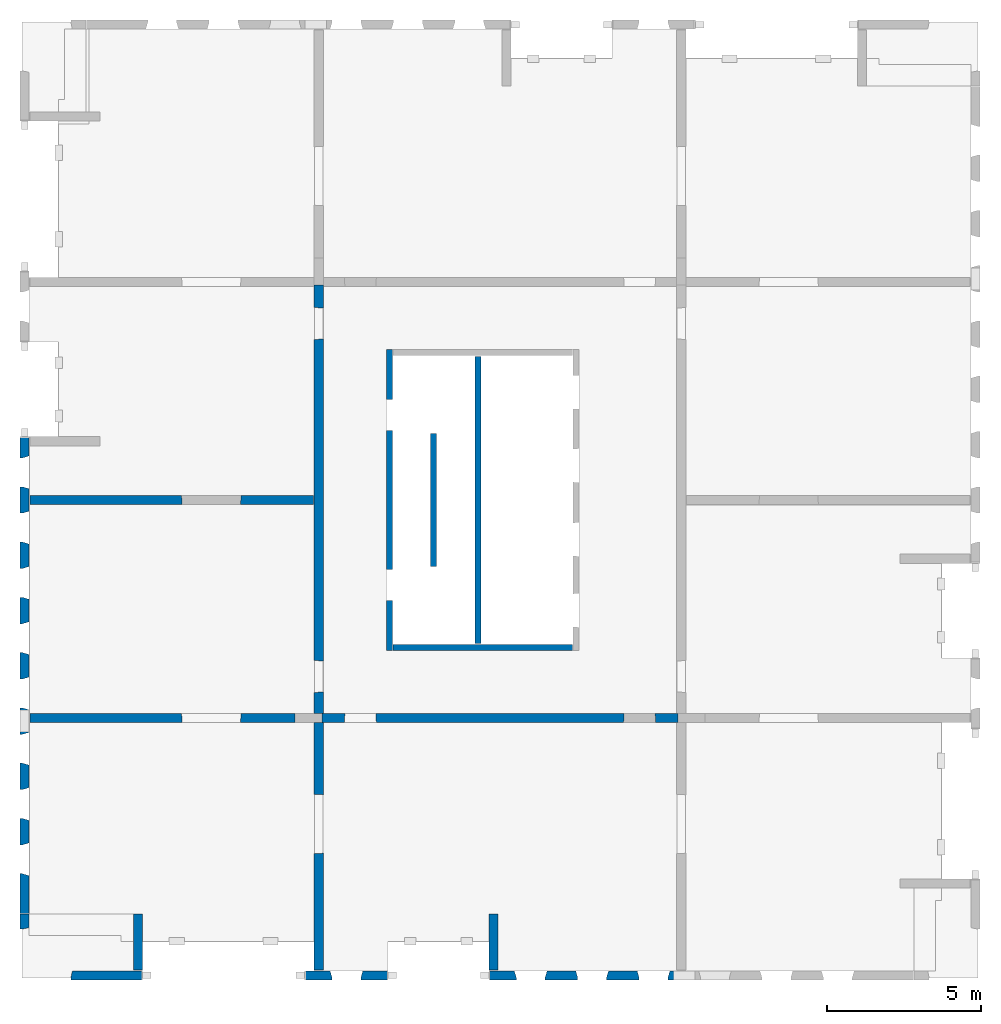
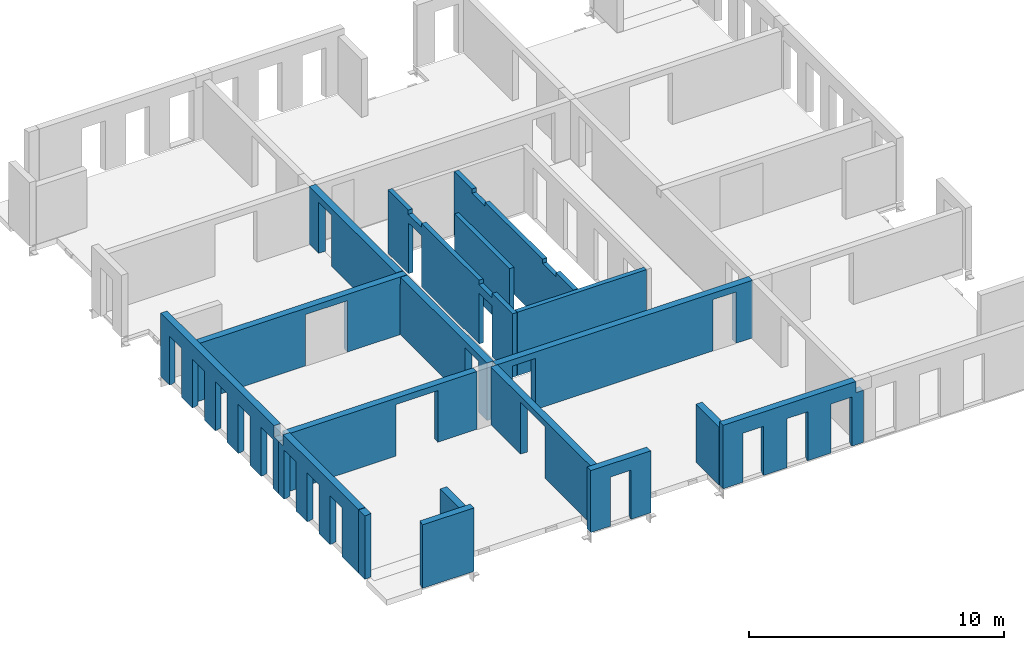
# One storey, part 2 of 5: 17 walls, 38 openings.
"""IFC2X3 building model written with IfcOpenShell, lengths in millimetres."""

from ifc_helpers import new_model, entity, si_unit, converted_unit, derived_unit, direction, frame, frame_2d, origin, origin_2d_with_axis, place, context, subcontext, project, spatial, rectangle, extrude, faceted_brep, material, layer, layer_set, layer_usage, type_object, element, save


model = new_model("IFC2X3")

# Units and contexts
model_context = context("Model", 3, precision=0.01, world=origin(), true_north=direction((6.12303176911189e-17, 1.0)))
body_context = subcontext(model_context, "Body", "Model", "MODEL_VIEW")
ifc_project = project(units=[si_unit("LENGTHUNIT", "METRE", prefix="MILLI"), si_unit("AREAUNIT", "SQUARE_METRE"), si_unit("VOLUMEUNIT", "CUBIC_METRE"), converted_unit("PLANEANGLEUNIT", "DEGREE", entity("IfcRatioMeasure", 0.0174532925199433), si_unit("PLANEANGLEUNIT", "RADIAN"), dimensions=[0, 0, 0, 0, 0, 0, 0]), si_unit("MASSUNIT", "GRAM", prefix="KILO"), derived_unit("MASSDENSITYUNIT", [(si_unit("MASSUNIT", "GRAM", prefix="KILO"), 1), (si_unit("LENGTHUNIT", "METRE"), -3)]), si_unit("TIMEUNIT", "SECOND"), si_unit("FREQUENCYUNIT", "HERTZ"), si_unit("THERMODYNAMICTEMPERATUREUNIT", "DEGREE_CELSIUS"), derived_unit("THERMALTRANSMITTANCEUNIT", [(si_unit("MASSUNIT", "GRAM", prefix="KILO"), 1), (si_unit("THERMODYNAMICTEMPERATUREUNIT", "KELVIN"), -1), (si_unit("TIMEUNIT", "SECOND"), -3)]), derived_unit("VOLUMETRICFLOWRATEUNIT", [(si_unit("LENGTHUNIT", "METRE"), 3), (si_unit("TIMEUNIT", "SECOND"), -1)]), si_unit("ELECTRICCURRENTUNIT", "AMPERE"), si_unit("ELECTRICVOLTAGEUNIT", "VOLT"), si_unit("POWERUNIT", "WATT"), si_unit("FORCEUNIT", "NEWTON", prefix="KILO"), si_unit("ILLUMINANCEUNIT", "LUX"), si_unit("LUMINOUSFLUXUNIT", "LUMEN"), si_unit("LUMINOUSINTENSITYUNIT", "CANDELA"), derived_unit("USERDEFINED", [(si_unit("MASSUNIT", "GRAM", prefix="KILO"), -1), (si_unit("LENGTHUNIT", "METRE"), -2), (si_unit("TIMEUNIT", "SECOND"), 3), (si_unit("LUMINOUSFLUXUNIT", "LUMEN"), 1)]), derived_unit("LINEARVELOCITYUNIT", [(si_unit("LENGTHUNIT", "METRE"), 1), (si_unit("TIMEUNIT", "SECOND"), -1)]), si_unit("PRESSUREUNIT", "PASCAL"), derived_unit("USERDEFINED", [(si_unit("LENGTHUNIT", "METRE"), -2), (si_unit("MASSUNIT", "GRAM", prefix="KILO"), 1), (si_unit("TIMEUNIT", "SECOND"), -2)])], contexts=[model_context])

# Site, building, storey
site_placement = place(None, origin())
site = spatial("IfcSite", under=ifc_project, at=site_placement, Name="Default", CompositionType="ELEMENT")
building_placement = place(site_placement, origin())
building = spatial("IfcBuilding", under=site, at=building_placement, Name="niet gebruiken", CompositionType="ELEMENT")
storey_placement = place(building_placement, frame((0.0, 0.0, 158760.0)))
storey = spatial("IfcBuildingStorey", under=building, at=storey_placement, Name="51 eenenvijftigste verdieping", CompositionType="ELEMENT", Elevation=158760.0)

# Wall, openings
ifc_material = material(Name="NLRS_f2_beton prefab")
ifc_layer_1 = layer(ifc_material, 200.0)
ifc_layer_set_1 = layer_set([ifc_layer_1], Name="Basic Wall:NLRS_22.21_WA_beton prefab d=200_gen")
ifc_layer_usage_1 = layer_usage(ifc_layer_set_1, "AXIS2", "NEGATIVE", 100.0)
wall_type_1 = type_object("IfcWallType", Name="Basic Wall:NLRS_22.21_WA_beton prefab d=200_gen", PredefinedType="STANDARD", material=ifc_layer_set_1)
wall_1_placement = place(storey_placement, frame((138150.0, 22400.0, -50.0), z_axis=(0.0, 0.0, 1.0), x_axis=(0.0, -1.0, 0.0)))
wall_1 = element("IfcWallStandardCase", 1, at=wall_1_placement, inside=storey, type_object=wall_type_1, material=ifc_layer_usage_1, Name="Basic Wall:NLRS_22.21_WA_beton prefab d=200_gen", ObjectType="Basic Wall:NLRS_22.21_WA_beton prefab d=200_gen", context=body_context, shape_type="SweptSolid", body=[
    extrude(rectangle(XDim=9800.0, YDim=199.999999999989, at=frame_2d((4900.0, 3.76587649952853e-13), x_axis=(-1.0, 0.0))), origin(), (0.0, 0.0, 1.0), 3040.0),
])
opening_1_placement = place(wall_1_placement, origin())
element("IfcOpeningElement", 2, at=opening_1_placement, cuts=wall_1, Name="Basic Wall:NLRS_22.21_WA_beton prefab d=200_gen", ObjectType="Opening", context=body_context, shape_type="SweptSolid", body=[
    extrude(rectangle(XDim=200.000000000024, YDim=1044.0, at=origin_2d_with_axis()), frame((7672.0, -100.0, 2940.0), z_axis=(0.0, 1.0, 0.0), x_axis=(0.0, 0.0, -1.0)), (0.0, 0.0, 1.0), 199.999999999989),
])
opening_2_placement = place(wall_1_placement, origin())
element("IfcOpeningElement", 3, at=opening_2_placement, cuts=wall_1, Name="Basic Wall:NLRS_22.21_WA_beton prefab d=200_gen", ObjectType="Opening", context=body_context, shape_type="SweptSolid", body=[
    extrude(rectangle(XDim=200.000000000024, YDim=1044.0, at=frame_2d((0.0, 2.1600499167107e-12), x_axis=(1.0, 0.0))), frame((2128.0, -100.0, 2940.0), z_axis=(0.0, 1.0, 0.0), x_axis=(0.0, 0.0, -1.0)), (0.0, 0.0, 1.0), 199.999999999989),
])
opening_3_placement = place(wall_1_placement, origin())
element("IfcOpeningElement", 4, at=opening_3_placement, cuts=wall_1, Name="Basic Wall:NLRS_22.21_WA_beton prefab d=200_gen", ObjectType="Opening", context=body_context, shape_type="SweptSolid", body=[
    extrude(rectangle(XDim=2435.00000000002, YDim=1015.99999999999, at=frame_2d((-1.72803993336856e-11, 1.10844666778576e-12), x_axis=(1.0, 0.0))), frame((7672.0, -100.0, 1217.49999999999), z_axis=(0.0, 1.0, 0.0), x_axis=(0.0, 0.0, -1.0)), (0.0, 0.0, 1.0), 199.999999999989),
])
opening_4_placement = place(wall_1_placement, origin())
element("IfcOpeningElement", 5, at=opening_4_placement, cuts=wall_1, Name="Basic Wall:NLRS_22.21_WA_beton prefab d=200_gen", ObjectType="Opening", context=body_context, shape_type="SweptSolid", body=[
    extrude(rectangle(XDim=2435.00000000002, YDim=1015.99999999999, at=frame_2d((-1.72803993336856e-11, -2.18847162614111e-12), x_axis=(1.0, 0.0))), frame((2128.0, -100.0, 1217.49999999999), z_axis=(0.0, 1.0, 0.0), x_axis=(0.0, 0.0, -1.0)), (0.0, 0.0, 1.0), 199.999999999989),
])

ifc_layer_usage_2 = layer_usage(ifc_layer_set_1, "AXIS2", "NEGATIVE", 100.0)
wall_2_placement = place(storey_placement, frame((141030.0, 22180.0, -50.0), z_axis=(0.0, 0.0, 1.0), x_axis=(0.0, -1.0, 0.0)))
wall_2 = element("IfcWallStandardCase", 6, at=wall_2_placement, inside=storey, type_object=wall_type_1, material=ifc_layer_usage_2, Name="Basic Wall:NLRS_22.21_WA_beton prefab d=200_gen", ObjectType="Basic Wall:NLRS_22.21_WA_beton prefab d=200_gen", context=body_context, shape_type="SweptSolid", body=[
    extrude(rectangle(XDim=9360.0, YDim=199.999999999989, at=frame_2d((4680.0, -2.8421709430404e-14), x_axis=(-1.0, 0.0))), origin(), (0.0, 0.0, 1.0), 3040.0),
])
opening_5_placement = place(wall_2_placement, origin())
element("IfcOpeningElement", 7, at=opening_5_placement, cuts=wall_2, Name="Basic Wall:NLRS_22.21_WA_beton prefab d=200_gen", ObjectType="Opening", context=body_context, shape_type="SweptSolid", body=[
    extrude(rectangle(XDim=69.9999999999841, YDim=1044.00000000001, at=frame_2d((1.732658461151e-11, 0.0), x_axis=(1.0, 0.0))), frame((7452.0, -100.0, 35.0), z_axis=(0.0, 1.0, 0.0), x_axis=(0.0, 0.0, -1.0)), (0.0, 0.0, 1.0), 199.999999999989),
])
opening_6_placement = place(wall_2_placement, origin())
element("IfcOpeningElement", 8, at=opening_6_placement, cuts=wall_2, Name="Basic Wall:NLRS_22.21_WA_beton prefab d=200_gen", ObjectType="Opening", context=body_context, shape_type="SweptSolid", body=[
    extrude(rectangle(XDim=69.9999999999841, YDim=1044.00000000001, at=frame_2d((1.732658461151e-11, 0.0), x_axis=(1.0, 0.0))), frame((1908.0, -100.0, 35.0), z_axis=(0.0, 1.0, 0.0), x_axis=(0.0, 0.0, -1.0)), (0.0, 0.0, 1.0), 199.999999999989),
])
opening_7_placement = place(wall_2_placement, origin())
element("IfcOpeningElement", 9, at=opening_7_placement, cuts=wall_2, Name="Basic Wall:NLRS_22.21_WA_beton prefab d=200_gen", ObjectType="Opening", context=body_context, shape_type="SweptSolid", body=[
    extrude(rectangle(XDim=200.000000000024, YDim=1044.00000000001, at=origin_2d_with_axis()), frame((1908.0, -100.0, 2940.0), z_axis=(0.0, 1.0, 0.0), x_axis=(0.0, 0.0, -1.0)), (0.0, 0.0, 1.0), 199.999999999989),
])
opening_8_placement = place(wall_2_placement, origin())
element("IfcOpeningElement", 10, at=opening_8_placement, cuts=wall_2, Name="Basic Wall:NLRS_22.21_WA_beton prefab d=200_gen", ObjectType="Opening", context=body_context, shape_type="SweptSolid", body=[
    extrude(rectangle(XDim=200.000000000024, YDim=1044.00000000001, at=origin_2d_with_axis()), frame((7452.0, -100.0, 2940.0), z_axis=(0.0, 1.0, 0.0), x_axis=(0.0, 0.0, -1.0)), (0.0, 0.0, 1.0), 199.999999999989),
])
opening_9_placement = place(wall_2_placement, origin())
element("IfcOpeningElement", 11, at=opening_9_placement, cuts=wall_2, Name="Basic Wall:NLRS_22.21_WA_beton prefab d=200_gen", ObjectType="Recess", context=body_context, shape_type="SweptSolid", body=[
    extrude(rectangle(XDim=399.999999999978, YDim=280.000000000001, at=frame_2d((-2.1600499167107e-12, 0.0), x_axis=(0.0, 1.0))), frame((770.0, -60.0, 438.0), z_axis=(0.0, 1.0, 0.0), x_axis=(1.0, 0.0, 0.0)), (0.0, 0.0, 1.0), 159.999999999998),
])
opening_10_placement = place(wall_2_placement, origin())
element("IfcOpeningElement", 12, at=opening_10_placement, cuts=wall_2, Name="Basic Wall:NLRS_22.21_WA_beton prefab d=200_gen", ObjectType="Recess", context=body_context, shape_type="SweptSolid", body=[
    extrude(rectangle(XDim=399.999999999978, YDim=280.000000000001, at=frame_2d((-2.1600499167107e-12, 0.0), x_axis=(0.0, 1.0))), frame((1570.0, -60.0, 438.0), z_axis=(0.0, 1.0, 0.0), x_axis=(1.0, 0.0, 0.0)), (0.0, 0.0, 1.0), 159.999999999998),
])
opening_11_placement = place(wall_2_placement, origin())
element("IfcOpeningElement", 13, at=opening_11_placement, cuts=wall_2, Name="Basic Wall:NLRS_22.21_WA_beton prefab d=200_gen", ObjectType="Recess", context=body_context, shape_type="SweptSolid", body=[
    extrude(rectangle(XDim=399.999999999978, YDim=279.999999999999, at=frame_2d((-1.08002495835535e-12, 0.0), x_axis=(0.0, 1.0))), frame((3160.0, -60.0, 438.0), z_axis=(0.0, 1.0, 0.0), x_axis=(1.0, 0.0, 0.0)), (0.0, 0.0, 1.0), 159.999999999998),
])
opening_12_placement = place(wall_2_placement, origin())
element("IfcOpeningElement", 14, at=opening_12_placement, cuts=wall_2, Name="Basic Wall:NLRS_22.21_WA_beton prefab d=200_gen", ObjectType="Recess", context=body_context, shape_type="SweptSolid", body=[
    extrude(rectangle(XDim=399.999999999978, YDim=279.999999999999, at=frame_2d((1.08002495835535e-12, 0.0), x_axis=(0.0, 1.0))), frame((3960.0, -60.0, 438.0), z_axis=(0.0, 1.0, 0.0), x_axis=(1.0, 0.0, 0.0)), (0.0, 0.0, 1.0), 159.999999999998),
])

# Walls
ifc_layer_usage_3 = layer_usage(ifc_layer_set_1, "AXIS2", "NEGATIVE", 100.0)
wall_3_placement = place(storey_placement, frame((139590.0, 19660.0, -50.0), z_axis=(0.0, 0.0, 1.0), x_axis=(0.0, -1.0, 0.0)))
element("IfcWallStandardCase", 15, at=wall_3_placement, inside=storey, type_object=wall_type_1, material=ifc_layer_usage_3, Name="Basic Wall:NLRS_22.21_WA_beton prefab d=200_gen", ObjectType="Basic Wall:NLRS_22.21_WA_beton prefab d=200_gen", context=body_context, shape_type="SweptSolid", body=[
    extrude(rectangle(XDim=4320.00000000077, YDim=199.999999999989, at=frame_2d((2160.00000000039, 0.0), x_axis=(-1.0, 0.0))), origin(), (0.0, 0.0, 1.0), 3040.0),
])
ifc_layer_usage_4 = layer_usage(ifc_layer_set_1, "AXIS2", "NEGATIVE", 100.0)
wall_4_placement = place(storey_placement, frame((138270.0, 12700.0, -50.0)))
element("IfcWallStandardCase", 16, at=wall_4_placement, inside=storey, type_object=wall_type_1, material=ifc_layer_usage_4, Name="Basic Wall:NLRS_22.21_WA_beton prefab d=200_gen", ObjectType="Basic Wall:NLRS_22.21_WA_beton prefab d=200_gen", context=body_context, shape_type="SweptSolid", body=[
    extrude(rectangle(XDim=5839.99999999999, YDim=199.999999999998, at=frame_2d((2919.99999999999, -6.82121026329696e-13), x_axis=(-1.0, 0.0))), origin(), (0.0, 0.0, 1.0), 3040.0),
])

# Wall, opening
ifc_layer_2 = layer(ifc_material, 300.0)
ifc_layer_set_2 = layer_set([ifc_layer_2], Name="Basic Wall:NLRS_22.21_WA_beton prefab d=300_gen")
ifc_layer_usage_5 = layer_usage(ifc_layer_set_2, "AXIS2", "NEGATIVE", 150.0)
wall_type_2 = type_object("IfcWallType", Name="Basic Wall:NLRS_22.21_WA_beton prefab d=300_gen", PredefinedType="STANDARD", material=ifc_layer_set_2)
wall_5_placement = place(storey_placement, frame((135850.0, 10250.0, -60.0), z_axis=(0.0, 0.0, 1.0), x_axis=(0.0, -1.0, 0.0)))
wall_5 = element("IfcWallStandardCase", 17, at=wall_5_placement, inside=storey, type_object=wall_type_2, material=ifc_layer_usage_5, Name="Basic Wall:NLRS_22.21_WA_beton prefab d=300_gen", ObjectType="Basic Wall:NLRS_22.21_WA_beton prefab d=300_gen", context=body_context, shape_type="SweptSolid", body=[
    extrude(rectangle(XDim=8059.99999999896, YDim=300.000000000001, at=frame_2d((4029.99999999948, 1.22213350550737e-12), x_axis=(-1.0, 0.0))), origin(), (0.0, 0.0, 1.0), 2760.0),
])
opening_13_placement = place(wall_5_placement, frame((4268.0, -150.0, -10.0)))
element("IfcOpeningElement", 18, at=opening_13_placement, cuts=wall_5, Name="Basic Wall:NLRS_22.21_WA_beton prefab d=300_gen", ObjectType="Opening", context=body_context, shape_type="Brep", body=[
    faceted_brep([(-18.0, 300.0, 2470.0), (-18.0, 300.0, 0.0), (-1918.0, 300.0, 0.0), (-1918.0, 300.0, 2470.0), (0.0, 0.0, 2488.0), (-1936.0, 0.0, 2488.0), (-1936.0, 0.0, 0.0), (0.0, 0.0, 0.0)], [[[0, 1, 2, 3]], [[4, 5, 6, 7]], [[4, 0, 3, 5]], [[5, 3, 2, 6]], [[6, 2, 1, 7]], [[7, 1, 0, 4]]]),
])

# Wall, openings
ifc_layer_usage_6 = layer_usage(ifc_layer_set_2, "AXIS2", "NEGATIVE", 150.0)
wall_6_placement = place(storey_placement, frame((135950.00354004, 10400.0, -60.0)))
wall_6 = element("IfcWallStandardCase", 19, at=wall_6_placement, inside=storey, type_object=wall_type_2, material=ifc_layer_usage_6, Name="Basic Wall:NLRS_22.21_WA_beton prefab d=300_gen", ObjectType="Basic Wall:NLRS_22.21_WA_beton prefab d=300_gen", context=body_context, shape_type="SweptSolid", body=[
    extrude(rectangle(XDim=11599.9964599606, YDim=300.000000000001, at=frame_2d((5799.9982299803, 1.70530256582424e-13), x_axis=(-1.0, 0.0))), origin(), (0.0, 0.0, 1.0), 2760.0),
])
opening_14_placement = place(wall_6_placement, frame((731.996459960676, -150.0, -10.0)))
element("IfcOpeningElement", 20, at=opening_14_placement, cuts=wall_6, Name="Basic Wall:NLRS_22.21_WA_beton prefab d=300_gen", ObjectType="Opening", context=body_context, shape_type="Brep", body=[
    faceted_brep([(0.0, 0.0, 2466.0), (18.0, 300.0, 2448.0), (18.0, 300.0, 0.0), (0.0, 0.0, 0.0), (1024.0, 300.0, 0.0), (1042.0, 0.0, 0.0), (1024.0, 300.0, 2448.0), (1042.0, 0.0, 2466.0)], [[[0, 1, 2, 3]], [[3, 2, 4, 5]], [[6, 4, 2, 1]], [[7, 0, 3, 5]], [[7, 6, 1, 0]], [[5, 4, 6, 7]]]),
])
opening_15_placement = place(wall_6_placement, frame((9825.99645996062, -150.0, -10.0)))
element("IfcOpeningElement", 21, at=opening_15_placement, cuts=wall_6, Name="Basic Wall:NLRS_22.21_WA_beton prefab d=300_gen", ObjectType="Opening", context=body_context, shape_type="Brep", body=[
    faceted_brep([(0.0, 0.0, 2466.0), (18.0, 300.0, 2448.0), (18.0, 300.0, 0.0), (0.0, 0.0, 0.0), (1024.0, 300.0, 0.0), (1042.0, 0.0, 0.0), (1024.0, 300.0, 2448.0), (1042.0, 0.0, 2466.0)], [[[0, 1, 2, 3]], [[3, 2, 4, 5]], [[6, 4, 2, 1]], [[7, 0, 3, 5]], [[7, 6, 1, 0]], [[5, 4, 6, 7]]]),
])

# Wall, opening
ifc_layer_usage_7 = layer_usage(ifc_layer_set_2, "AXIS2", "NEGATIVE", 150.0)
wall_7_placement = place(storey_placement, frame((138110.0, 2020.0, -50.0), z_axis=(0.0, 0.0, 1.0), x_axis=(-1.0, 0.0, 0.0)))
wall_7 = element("IfcWallStandardCase", 22, at=wall_7_placement, inside=storey, type_object=wall_type_2, material=ifc_layer_usage_7, Name="Basic Wall:NLRS_22.21_WA_beton prefab d=300_gen", ObjectType="Basic Wall:NLRS_22.21_WA_beton prefab d=300_gen", context=body_context, shape_type="SweptSolid", body=[
    extrude(rectangle(XDim=2720.00000000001, YDim=300.0, at=frame_2d((1360.0, -8.5265128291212e-14), x_axis=(-1.0, 0.0))), origin(), (0.0, 0.0, 1.0), 2970.00000000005),
])
opening_16_placement = place(wall_7_placement, frame((1895.0, 150.0, -20.0)))
element("IfcOpeningElement", 23, at=opening_16_placement, cuts=wall_7, Name="Basic Wall:NLRS_22.21_WA_beton prefab d=300_gen", ObjectType="Opening", context=body_context, shape_type="Brep", body=[
    faceted_brep([(-1070.0, -300.0, 2405.0), (-1070.0, -300.0, 0.0), (0.0, -300.0, 0.0), (0.0, -300.0, 2405.0), (-65.0, -81.0, 2370.0), (-1005.0, -81.0, 2370.0), (-65.0, -81.0, 0.0), (-1005.0, -81.0, 0.0), (-1005.0, 0.0, 0.0), (-65.0, 0.0, 0.0), (-1005.0, 0.0, 2370.0), (-65.0, 0.0, 2370.0)], [[[0, 1, 2, 3]], [[3, 4, 5, 0]], [[2, 6, 4, 3]], [[1, 7, 8, 9, 6, 2]], [[0, 5, 7, 1]], [[10, 11, 9, 8]], [[10, 5, 4, 11]], [[11, 4, 6, 9]], [[8, 7, 5, 10]]]),
])

# Wall, openings
ifc_layer_usage_8 = layer_usage(ifc_layer_set_2, "AXIS2", "NEGATIVE", 150.0)
wall_8_placement = place(storey_placement, frame((126440.0, 17500.0, -60.0)))
wall_8 = element("IfcWallStandardCase", 24, at=wall_8_placement, inside=storey, type_object=wall_type_2, material=ifc_layer_usage_8, Name="Basic Wall:NLRS_22.21_WA_beton prefab d=300_gen", ObjectType="Basic Wall:NLRS_22.21_WA_beton prefab d=300_gen", context=body_context, shape_type="SweptSolid", body=[
    extrude(rectangle(XDim=9559.9999999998, YDim=300.000000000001, at=frame_2d((4779.9999999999, -5.54223333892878e-13), x_axis=(-1.0, 0.0))), origin(), (0.0, 0.0, 1.0), 2760.0),
])
opening_17_placement = place(wall_8_placement, frame((4942.0, -150.0, -10.0)))
element("IfcOpeningElement", 25, at=opening_17_placement, cuts=wall_8, Name="Basic Wall:NLRS_22.21_WA_beton prefab d=300_gen", ObjectType="Opening", context=body_context, shape_type="Brep", body=[
    faceted_brep([(1918.0, 0.0, 2470.0), (18.0, 0.0, 2470.0), (18.0, 0.0, 0.0), (1918.0, 0.0, 0.0), (1936.0, 300.0, 2488.0), (1936.0, 300.0, 0.0), (0.0, 300.0, 0.0), (0.0, 300.0, 2488.0)], [[[0, 1, 2, 3]], [[4, 5, 6, 7]], [[4, 7, 1, 0]], [[7, 6, 2, 1]], [[6, 5, 3, 2]], [[5, 4, 0, 3]]]),
])
opening_18_placement = place(wall_8_placement, origin())
element("IfcOpeningElement", 26, at=opening_18_placement, cuts=wall_8, Name="Basic Wall:NLRS_22.21_WA_beton prefab d=300_gen", ObjectType="Opening", context=body_context, shape_type="SweptSolid", body=[
    extrude(rectangle(XDim=2429.99999999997, YDim=319.999999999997, at=frame_2d((0.0, 0.0), x_axis=(0.0, 1.0))), frame((9400.0, 150.0, 1215.0), z_axis=(0.0, -1.0, 0.0), x_axis=(1.0, 0.0, 0.0)), (0.0, 0.0, 1.0), 300.0),
])

# Wall, opening
ifc_layer_usage_9 = layer_usage(ifc_layer_set_2, "AXIS2", "NEGATIVE", 150.0)
wall_9_placement = place(storey_placement, frame((126440.0, 10400.0, -70.0)))
wall_9 = element("IfcWallStandardCase", 27, at=wall_9_placement, inside=storey, type_object=wall_type_2, material=ifc_layer_usage_9, Name="Basic Wall:NLRS_22.21_WA_beton prefab d=300_gen", ObjectType="Basic Wall:NLRS_22.21_WA_beton prefab d=300_gen", context=body_context, shape_type="SweptSolid", body=[
    extrude(rectangle(XDim=8630.00354003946, YDim=300.000000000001, at=frame_2d((4315.00177001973, -2.70006239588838e-13), x_axis=(-1.0, 0.0))), origin(), (0.0, 0.0, 1.0), 2769.99999999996),
])
opening_19_placement = place(wall_9_placement, frame((4942.0, -150.0, 0.0)))
element("IfcOpeningElement", 28, at=opening_19_placement, cuts=wall_9, Name="Basic Wall:NLRS_22.21_WA_beton prefab d=300_gen", ObjectType="Opening", context=body_context, shape_type="Brep", body=[
    faceted_brep([(1918.0, 0.0, 2470.0), (18.0, 0.0, 2470.0), (18.0, 0.0, 0.0), (1918.0, 0.0, 0.0), (1936.0, 300.0, 2488.0), (1936.0, 300.0, 0.0), (0.0, 300.0, 0.0), (0.0, 300.0, 2488.0)], [[[0, 1, 2, 3]], [[4, 5, 6, 7]], [[4, 7, 1, 0]], [[7, 6, 2, 1]], [[6, 5, 3, 2]], [[5, 4, 0, 3]]]),
])

# Wall, openings
ifc_layer_usage_10 = layer_usage(ifc_layer_set_2, "AXIS2", "NEGATIVE", 150.0)
wall_10_placement = place(storey_placement, frame((135850.0, 24500.0, -60.0), z_axis=(0.0, 0.0, 1.0), x_axis=(0.0, -1.0, 0.0)))
wall_10 = element("IfcWallStandardCase", 29, at=wall_10_placement, inside=storey, type_object=wall_type_2, material=ifc_layer_usage_10, Name="Basic Wall:NLRS_22.21_WA_beton prefab d=300_gen", ObjectType="Basic Wall:NLRS_22.21_WA_beton prefab d=300_gen", context=body_context, shape_type="SweptSolid", body=[
    extrude(rectangle(XDim=13949.999999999, YDim=300.000000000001, at=frame_2d((6974.99999999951, 4.2632564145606e-14), x_axis=(-1.0, 0.0))), origin(), (0.0, 0.0, 1.0), 2760.0),
])
opening_20_placement = place(wall_10_placement, frame((13268.0, -150.0, -10.0)))
element("IfcOpeningElement", 30, at=opening_20_placement, cuts=wall_10, Name="Basic Wall:NLRS_22.21_WA_beton prefab d=300_gen", ObjectType="Opening", context=body_context, shape_type="Brep", body=[
    faceted_brep([(-1042.0, 0.0, 2466.0), (-1024.0, 300.0, 2448.0), (-1024.0, 300.0, 0.0), (-1042.0, 0.0, 0.0), (-18.0, 300.0, 0.0), (0.0, 0.0, 0.0), (-18.0, 300.0, 2448.0), (0.0, 0.0, 2466.0)], [[[0, 1, 2, 3]], [[3, 2, 4, 5]], [[6, 4, 2, 1]], [[7, 0, 3, 5]], [[7, 6, 1, 0]], [[5, 4, 6, 7]]]),
])
opening_21_placement = place(wall_10_placement, frame((1774.0, -150.0, -10.0)))
element("IfcOpeningElement", 31, at=opening_21_placement, cuts=wall_10, Name="Basic Wall:NLRS_22.21_WA_beton prefab d=300_gen", ObjectType="Opening", context=body_context, shape_type="Brep", body=[
    faceted_brep([(-1042.0, 0.0, 2466.0), (-1024.0, 300.0, 2448.0), (-1024.0, 300.0, 0.0), (-1042.0, 0.0, 0.0), (-18.0, 300.0, 0.0), (0.0, 0.0, 0.0), (-18.0, 300.0, 2448.0), (0.0, 0.0, 2466.0)], [[[0, 1, 2, 3]], [[3, 2, 4, 5]], [[6, 4, 2, 1]], [[7, 0, 3, 5]], [[7, 6, 1, 0]], [[5, 4, 6, 7]]]),
])
opening_22_placement = place(wall_10_placement, origin())
element("IfcOpeningElement", 32, at=opening_22_placement, cuts=wall_10, Name="Basic Wall:NLRS_22.21_WA_beton prefab d=300_gen", ObjectType="Opening", context=body_context, shape_type="SweptSolid", body=[
    extrude(rectangle(XDim=350.000000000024, YDim=339.999999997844, at=frame_2d((0.0, 0.0), x_axis=(0.0, 1.0))), frame((7000.0, 150.0, 2585.0), z_axis=(0.0, -1.0, 0.0), x_axis=(-1.0, 0.0, 0.0)), (0.0, 0.0, 1.0), 300.0),
])

# Walls
ifc_layer_usage_11 = layer_usage(ifc_layer_set_2, "AXIS2", "NEGATIVE", 150.0)
wall_11_placement = place(storey_placement, frame((129960.0, 4020.0, -70.0), z_axis=(0.0, 0.0, 1.0), x_axis=(0.0, -1.0, 0.0)))
element("IfcWallStandardCase", 33, at=wall_11_placement, inside=storey, type_object=wall_type_2, material=ifc_layer_usage_11, Name="Basic Wall:NLRS_22.21_WA_beton prefab d=300_gen", ObjectType="Basic Wall:NLRS_22.21_WA_beton prefab d=300_gen", context=body_context, shape_type="SweptSolid", body=[
    extrude(rectangle(XDim=1829.99999999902, YDim=300.000000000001, at=frame_2d((914.99999999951, -2.07478478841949e-12), x_axis=(-1.0, 0.0))), origin(), (0.0, 0.0, 1.0), 2769.99999999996),
])
ifc_layer_usage_12 = layer_usage(ifc_layer_set_2, "AXIS2", "NEGATIVE", 150.0)
wall_12_placement = place(storey_placement, frame((141540.0, 4020.0, -70.0), z_axis=(0.0, 0.0, 1.0), x_axis=(0.0, -1.0, 0.0)))
element("IfcWallStandardCase", 34, at=wall_12_placement, inside=storey, type_object=wall_type_2, material=ifc_layer_usage_12, Name="Basic Wall:NLRS_22.21_WA_beton prefab d=300_gen", ObjectType="Basic Wall:NLRS_22.21_WA_beton prefab d=300_gen", context=body_context, shape_type="SweptSolid", body=[
    extrude(rectangle(XDim=1829.99999999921, YDim=300.000000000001, at=frame_2d((914.999999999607, -2.07478478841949e-12), x_axis=(-1.0, 0.0))), origin(), (0.0, 0.0, 1.0), 2769.99999999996),
])

# Wall, openings
ifc_layer_3 = layer(ifc_material, 300.0)
ifc_layer_set_3 = layer_set([ifc_layer_3], Name="Basic Wall:NLRS_21.21_WA_beton prefab d=300/320_gen")
ifc_layer_usage_13 = layer_usage(ifc_layer_set_3, "AXIS2", "NEGATIVE", 150.0)
wall_type_3 = type_object("IfcWallType", Name="Basic Wall:NLRS_21.21_WA_beton prefab d=300/320_gen", PredefinedType="STANDARD", material=ifc_layer_set_3)
wall_13_placement = place(storey_placement, frame((126270.0, 4040.0, -50.0), z_axis=(0.0, 0.0, 1.0), x_axis=(0.0, 1.0, 0.0)))
wall_13 = element("IfcWallStandardCase", 35, at=wall_13_placement, inside=storey, type_object=wall_type_3, material=ifc_layer_usage_13, Name="Basic Wall:NLRS_21.21_WA_beton prefab d=300/320_gen", ObjectType="Basic Wall:NLRS_21.21_WA_beton prefab d=300/320_gen", context=body_context, shape_type="SweptSolid", body=[
    extrude(rectangle(XDim=6249.99999999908, YDim=300.000000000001, at=frame_2d((3124.99999999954, 0.0), x_axis=(-1.0, 0.0))), origin(), (0.0, 0.0, 1.0), 3040.0),
])
opening_23_placement = place(wall_13_placement, frame((1225.0, 150.0, -20.0)))
element("IfcOpeningElement", 36, at=opening_23_placement, cuts=wall_13, Name="Basic Wall:NLRS_21.21_WA_beton prefab d=300/320_gen", ObjectType="Opening", context=body_context, shape_type="Brep", body=[
    faceted_brep([(0.0, -300.0, 2405.0), (0.0, -300.0, 0.0), (1070.0, -300.0, 0.0), (1070.0, -300.0, 2405.0), (1005.0, -81.0, 2370.0), (65.0, -81.0, 2370.0), (1005.0, -81.0, 0.0), (65.0, -81.0, 0.0), (65.0, 0.0, 0.0), (1005.0, 0.0, 0.0), (65.0, 0.0, 2370.0), (1005.0, 0.0, 2370.0)], [[[0, 1, 2, 3]], [[3, 4, 5, 0]], [[2, 6, 4, 3]], [[1, 7, 8, 9, 6, 2]], [[0, 5, 7, 1]], [[10, 11, 9, 8]], [[10, 5, 4, 11]], [[11, 4, 6, 9]], [[8, 7, 5, 10]]]),
])
opening_24_placement = place(wall_13_placement, frame((3025.0, 150.0, -20.0)))
element("IfcOpeningElement", 37, at=opening_24_placement, cuts=wall_13, Name="Basic Wall:NLRS_21.21_WA_beton prefab d=300/320_gen", ObjectType="Opening", context=body_context, shape_type="Brep", body=[
    faceted_brep([(0.0, -300.0, 2405.0), (0.0, -300.0, 0.0), (1070.0, -300.0, 0.0), (1070.0, -300.0, 2405.0), (1005.0, -81.0, 2370.0), (65.0, -81.0, 2370.0), (1005.0, -81.0, 0.0), (65.0, -81.0, 0.0), (65.0, 0.0, 0.0), (1005.0, 0.0, 0.0), (65.0, 0.0, 2370.0), (1005.0, 0.0, 2370.0)], [[[0, 1, 2, 3]], [[3, 4, 5, 0]], [[2, 6, 4, 3]], [[1, 7, 8, 9, 6, 2]], [[0, 5, 7, 1]], [[10, 11, 9, 8]], [[10, 5, 4, 11]], [[11, 4, 6, 9]], [[8, 7, 5, 10]]]),
])
opening_25_placement = place(wall_13_placement, frame((4825.0, 150.0, -20.0)))
element("IfcOpeningElement", 38, at=opening_25_placement, cuts=wall_13, Name="Basic Wall:NLRS_21.21_WA_beton prefab d=300/320_gen", ObjectType="Opening", context=body_context, shape_type="Brep", body=[
    faceted_brep([(0.0, -300.0, 2405.0), (0.0, -300.0, 0.0), (1070.0, -300.0, 0.0), (1070.0, -300.0, 2405.0), (1005.0, -81.0, 2370.0), (65.0, -81.0, 2370.0), (1005.0, -81.0, 0.0), (65.0, -81.0, 0.0), (65.0, 0.0, 0.0), (1005.0, 0.0, 0.0), (65.0, 0.0, 2370.0), (1005.0, 0.0, 2370.0)], [[[0, 1, 2, 3]], [[3, 4, 5, 0]], [[2, 6, 4, 3]], [[1, 7, 8, 9, 6, 2]], [[0, 5, 7, 1]], [[10, 11, 9, 8]], [[10, 5, 4, 11]], [[11, 4, 6, 9]], [[8, 7, 5, 10]]]),
])
opening_26_placement = place(wall_13_placement, origin())
element("IfcOpeningElement", 39, at=opening_26_placement, cuts=wall_13, Name="Basic Wall:NLRS_21.21_WA_beton prefab d=300/320_gen", ObjectType="Opening", context=body_context, shape_type="SweptSolid", body=[
    extrude(rectangle(XDim=534.99999999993, YDim=344.999999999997, at=frame_2d((0.0, 1.08002495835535e-12), x_axis=(1.0, 0.0))), frame((6077.49999999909, 150.0, 2772.50000000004), z_axis=(0.0, -1.0, 0.0), x_axis=(0.0, 0.0, 1.0)), (0.0, 0.0, 1.0), 300.0),
])

# Wall, opening
ifc_layer_usage_14 = layer_usage(ifc_layer_set_3, "AXIS2", "NEGATIVE", 150.0)
wall_14_placement = place(storey_placement, frame((130110.0, 2020.0, -50.0), z_axis=(0.0, 0.0, 1.0), x_axis=(-1.0, 0.0, 0.0)))
wall_14 = element("IfcWallStandardCase", 40, at=wall_14_placement, inside=storey, type_object=wall_type_3, material=ifc_layer_usage_14, Name="Basic Wall:NLRS_21.21_WA_beton prefab d=300/320_gen", ObjectType="Basic Wall:NLRS_21.21_WA_beton prefab d=300/320_gen", context=body_context, shape_type="SweptSolid", body=[
    extrude(rectangle(XDim=2330.00000000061, YDim=300.0, at=frame_2d((1165.00000000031, -5.6843418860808e-14), x_axis=(-1.0, 0.0))), origin(), (0.0, 0.0, 1.0), 3040.0),
])
opening_27_placement = place(wall_14_placement, frame((2330.0, 69.0, 0.0)))
element("IfcOpeningElement", 41, at=opening_27_placement, cuts=wall_14, Name="Basic Wall:NLRS_21.21_WA_beton prefab d=300/320_gen", ObjectType="Opening", context=body_context, shape_type="Brep", body=[
    faceted_brep([(0.0, -319.0, 3040.0), (0.0, 0.0, 3040.0), (-65.0, -319.0, 3040.0), (0.0, -319.0, 0.0), (-65.0, -319.0, 0.0), (0.0, 0.0, 0.0)], [[[0, 1, 2]], [[3, 4, 5]], [[2, 4, 3, 0]], [[0, 3, 5, 1]], [[1, 5, 4, 2]]]),
])

ifc_layer_usage_15 = layer_usage(ifc_layer_set_3, "AXIS2", "NEGATIVE", 150.0)
wall_15_placement = place(storey_placement, frame((126270.0, 3530.0, -50.0), z_axis=(0.0, 0.0, 1.0), x_axis=(0.0, 1.0, 0.0)))
wall_15 = element("IfcWallStandardCase", 42, at=wall_15_placement, inside=storey, type_object=wall_type_3, material=ifc_layer_usage_15, Name="Basic Wall:NLRS_21.21_WA_beton prefab d=300/320_gen", ObjectType="Basic Wall:NLRS_21.21_WA_beton prefab d=300/320_gen", context=body_context, shape_type="SweptSolid", body=[
    extrude(rectangle(XDim=489.999999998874, YDim=300.000000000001, at=frame_2d((244.999999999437, -3.25428572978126e-12), x_axis=(-1.0, 0.0))), origin(), (0.0, 0.0, 1.0), 3040.0),
])
opening_28_placement = place(wall_15_placement, frame((-1.97405825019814e-09, 69.0, 0.0)))
element("IfcOpeningElement", 43, at=opening_28_placement, cuts=wall_15, Name="Basic Wall:NLRS_21.21_WA_beton prefab d=300/320_gen", ObjectType="Opening", context=body_context, shape_type="Brep", body=[
    faceted_brep([(0.0, -319.0, 3040.0), (65.0, -319.0, 3040.0), (0.0, 0.0, 3040.0), (0.0, -319.0, 0.0), (0.0, 0.0, 0.0), (65.0, -319.0, 0.0)], [[[0, 1, 2]], [[3, 4, 5]], [[1, 0, 3, 5]], [[0, 2, 4, 3]], [[2, 1, 5, 4]]]),
])

# Wall, openings
ifc_layer_usage_16 = layer_usage(ifc_layer_set_3, "AXIS2", "NEGATIVE", 150.0)
wall_16_placement = place(storey_placement, frame((126270.0, 10310.0, -50.0), z_axis=(0.0, 0.0, 1.0), x_axis=(0.0, 1.0, 0.0)))
wall_16 = element("IfcWallStandardCase", 44, at=wall_16_placement, inside=storey, type_object=wall_type_3, material=ifc_layer_usage_16, Name="Basic Wall:NLRS_21.21_WA_beton prefab d=300/320_gen", ObjectType="Basic Wall:NLRS_21.21_WA_beton prefab d=300/320_gen", context=body_context, shape_type="SweptSolid", body=[
    extrude(rectangle(XDim=9250.00000000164, YDim=300.000000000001, at=frame_2d((4625.00000000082, 0.0), x_axis=(-1.0, 0.0))), origin(), (0.0, 0.0, 1.0), 3040.0),
])
opening_29_placement = place(wall_16_placement, frame((7555.0, 150.0, -20.0)))
element("IfcOpeningElement", 45, at=opening_29_placement, cuts=wall_16, Name="Basic Wall:NLRS_21.21_WA_beton prefab d=300/320_gen", ObjectType="Opening", context=body_context, shape_type="Brep", body=[
    faceted_brep([(0.0, -300.0, 2405.0), (0.0, -300.0, 0.0), (1070.0, -300.0, 0.0), (1070.0, -300.0, 2405.0), (1005.0, -81.0, 2370.0), (65.0, -81.0, 2370.0), (1005.0, -81.0, 0.0), (65.0, -81.0, 0.0), (65.0, 0.0, 0.0), (1005.0, 0.0, 0.0), (65.0, 0.0, 2370.0), (1005.0, 0.0, 2370.0)], [[[0, 1, 2, 3]], [[3, 4, 5, 0]], [[2, 6, 4, 3]], [[1, 7, 8, 9, 6, 2]], [[0, 5, 7, 1]], [[10, 11, 9, 8]], [[10, 5, 4, 11]], [[11, 4, 6, 9]], [[8, 7, 5, 10]]]),
])
opening_30_placement = place(wall_16_placement, frame((3955.0, 150.0, -20.0)))
element("IfcOpeningElement", 46, at=opening_30_placement, cuts=wall_16, Name="Basic Wall:NLRS_21.21_WA_beton prefab d=300/320_gen", ObjectType="Opening", context=body_context, shape_type="Brep", body=[
    faceted_brep([(0.0, -300.0, 2405.0), (0.0, -300.0, 0.0), (1070.0, -300.0, 0.0), (1070.0, -300.0, 2405.0), (1005.0, -81.0, 2370.0), (65.0, -81.0, 2370.0), (1005.0, -81.0, 0.0), (65.0, -81.0, 0.0), (65.0, 0.0, 0.0), (1005.0, 0.0, 0.0), (65.0, 0.0, 2370.0), (1005.0, 0.0, 2370.0)], [[[0, 1, 2, 3]], [[3, 4, 5, 0]], [[2, 6, 4, 3]], [[1, 7, 8, 9, 6, 2]], [[0, 5, 7, 1]], [[10, 11, 9, 8]], [[10, 5, 4, 11]], [[11, 4, 6, 9]], [[8, 7, 5, 10]]]),
])
opening_31_placement = place(wall_16_placement, frame((2155.0, 150.0, -20.0)))
element("IfcOpeningElement", 47, at=opening_31_placement, cuts=wall_16, Name="Basic Wall:NLRS_21.21_WA_beton prefab d=300/320_gen", ObjectType="Opening", context=body_context, shape_type="Brep", body=[
    faceted_brep([(0.0, -300.0, 2405.0), (0.0, -300.0, 0.0), (1070.0, -300.0, 0.0), (1070.0, -300.0, 2405.0), (1005.0, -81.0, 2370.0), (65.0, -81.0, 2370.0), (1005.0, -81.0, 0.0), (65.0, -81.0, 0.0), (65.0, 0.0, 0.0), (1005.0, 0.0, 0.0), (65.0, 0.0, 2370.0), (1005.0, 0.0, 2370.0)], [[[0, 1, 2, 3]], [[3, 4, 5, 0]], [[2, 6, 4, 3]], [[1, 7, 8, 9, 6, 2]], [[0, 5, 7, 1]], [[10, 11, 9, 8]], [[10, 5, 4, 11]], [[11, 4, 6, 9]], [[8, 7, 5, 10]]]),
])
opening_32_placement = place(wall_16_placement, frame((5755.0, 150.0, -20.0)))
element("IfcOpeningElement", 48, at=opening_32_placement, cuts=wall_16, Name="Basic Wall:NLRS_21.21_WA_beton prefab d=300/320_gen", ObjectType="Opening", context=body_context, shape_type="Brep", body=[
    faceted_brep([(0.0, -300.0, 2405.0), (0.0, -300.0, 0.0), (1070.0, -300.0, 0.0), (1070.0, -300.0, 2405.0), (1005.0, -81.0, 2370.0), (65.0, -81.0, 2370.0), (1005.0, -81.0, 0.0), (65.0, -81.0, 0.0), (65.0, 0.0, 0.0), (1005.0, 0.0, 0.0), (65.0, 0.0, 2370.0), (1005.0, 0.0, 2370.0)], [[[0, 1, 2, 3]], [[3, 4, 5, 0]], [[2, 6, 4, 3]], [[1, 7, 8, 9, 6, 2]], [[0, 5, 7, 1]], [[10, 11, 9, 8]], [[10, 5, 4, 11]], [[11, 4, 6, 9]], [[8, 7, 5, 10]]]),
])
opening_33_placement = place(wall_16_placement, frame((355.0, 150.0, -20.0)))
element("IfcOpeningElement", 49, at=opening_33_placement, cuts=wall_16, Name="Basic Wall:NLRS_21.21_WA_beton prefab d=300/320_gen", ObjectType="Opening", context=body_context, shape_type="Brep", body=[
    faceted_brep([(1070.0, -300.0, 2405.0), (0.0, -300.0, 2405.0), (0.0, -300.0, 0.0), (1070.0, -300.0, 0.0), (1005.0, -81.0, 2370.0), (65.0, -81.0, 2370.0), (65.0, -81.0, 0.0), (65.0, 0.0, 0.0), (1005.0, 0.0, 0.0), (1005.0, -81.0, 0.0), (1005.0, 0.0, 2370.0), (65.0, 0.0, 2370.0)], [[[0, 1, 2, 3]], [[1, 0, 4, 5]], [[2, 1, 5, 6]], [[3, 2, 6, 7, 8, 9]], [[0, 3, 9, 4]], [[10, 8, 7, 11]], [[10, 11, 5, 4]], [[11, 7, 6, 5]], [[8, 10, 4, 9]]]),
])
opening_34_placement = place(wall_16_placement, origin())
element("IfcOpeningElement", 50, at=opening_34_placement, cuts=wall_16, Name="Basic Wall:NLRS_21.21_WA_beton prefab d=300/320_gen", ObjectType="Opening", context=body_context, shape_type="SweptSolid", body=[
    extrude(rectangle(XDim=535.0, YDim=345.000000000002, at=frame_2d((1.08002495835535e-12, 0.0), x_axis=(0.0, 1.0))), frame((172.500000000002, 150.0, 2772.5), z_axis=(0.0, -1.0, 0.0), x_axis=(-1.0, 0.0, 0.0)), (0.0, 0.0, 1.0), 300.0),
])

ifc_layer_usage_17 = layer_usage(ifc_layer_set_3, "AXIS2", "NEGATIVE", 150.0)
wall_17_placement = place(storey_placement, frame((147740.0, 2020.0, -50.0), z_axis=(0.0, 0.0, 1.0), x_axis=(-1.0, 0.0, 0.0)))
wall_17 = element("IfcWallStandardCase", 51, at=wall_17_placement, inside=storey, type_object=wall_type_3, material=ifc_layer_usage_17, Name="Basic Wall:NLRS_21.21_WA_beton prefab d=300/320_gen", ObjectType="Basic Wall:NLRS_21.21_WA_beton prefab d=300/320_gen", context=body_context, shape_type="SweptSolid", body=[
    extrude(rectangle(XDim=6350.00000000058, YDim=300.0, at=frame_2d((3175.00000000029, -4.2632564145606e-14), x_axis=(-1.0, 0.0))), origin(), (0.0, 0.0, 1.0), 3040.0),
])
opening_35_placement = place(wall_17_placement, frame((1525.0, 150.0, -20.0)))
element("IfcOpeningElement", 52, at=opening_35_placement, cuts=wall_17, Name="Basic Wall:NLRS_21.21_WA_beton prefab d=300/320_gen", ObjectType="Opening", context=body_context, shape_type="Brep", body=[
    faceted_brep([(0.0, -300.0, 2405.0), (-1070.0, -300.0, 2405.0), (-1070.0, -300.0, 0.0), (0.0, -300.0, 0.0), (-65.0, -81.0, 2370.0), (-1005.0, -81.0, 2370.0), (-1005.0, -81.0, 0.0), (-1005.0, 0.0, 0.0), (-65.0, 0.0, 0.0), (-65.0, -81.0, 0.0), (-65.0, 0.0, 2370.0), (-1005.0, 0.0, 2370.0)], [[[0, 1, 2, 3]], [[1, 0, 4, 5]], [[2, 1, 5, 6]], [[3, 2, 6, 7, 8, 9]], [[0, 3, 9, 4]], [[10, 8, 7, 11]], [[10, 11, 5, 4]], [[11, 7, 6, 5]], [[8, 10, 4, 9]]]),
])
opening_36_placement = place(wall_17_placement, frame((3525.0, 150.0, -20.0)))
element("IfcOpeningElement", 53, at=opening_36_placement, cuts=wall_17, Name="Basic Wall:NLRS_21.21_WA_beton prefab d=300/320_gen", ObjectType="Opening", context=body_context, shape_type="Brep", body=[
    faceted_brep([(0.0, -300.0, 2405.0), (-1070.0, -300.0, 2405.0), (-1070.0, -300.0, 0.0), (0.0, -300.0, 0.0), (-65.0, -81.0, 2370.0), (-1005.0, -81.0, 2370.0), (-1005.0, -81.0, 0.0), (-1005.0, 0.0, 0.0), (-65.0, 0.0, 0.0), (-65.0, -81.0, 0.0), (-65.0, 0.0, 2370.0), (-1005.0, 0.0, 2370.0)], [[[0, 1, 2, 3]], [[1, 0, 4, 5]], [[2, 1, 5, 6]], [[3, 2, 6, 7, 8, 9]], [[0, 3, 9, 4]], [[10, 8, 7, 11]], [[10, 11, 5, 4]], [[11, 7, 6, 5]], [[8, 10, 4, 9]]]),
])
opening_37_placement = place(wall_17_placement, frame((5525.0, 150.0, -20.0)))
element("IfcOpeningElement", 54, at=opening_37_placement, cuts=wall_17, Name="Basic Wall:NLRS_21.21_WA_beton prefab d=300/320_gen", ObjectType="Opening", context=body_context, shape_type="Brep", body=[
    faceted_brep([(0.0, -300.0, 2405.0), (-1070.0, -300.0, 2405.0), (-1070.0, -300.0, 0.0), (0.0, -300.0, 0.0), (-65.0, -81.0, 2370.0), (-1005.0, -81.0, 2370.0), (-1005.0, -81.0, 0.0), (-1005.0, 0.0, 0.0), (-65.0, 0.0, 0.0), (-65.0, -81.0, 0.0), (-65.0, 0.0, 2370.0), (-1005.0, 0.0, 2370.0)], [[[0, 1, 2, 3]], [[1, 0, 4, 5]], [[2, 1, 5, 6]], [[3, 2, 6, 7, 8, 9]], [[0, 3, 9, 4]], [[10, 8, 7, 11]], [[10, 11, 5, 4]], [[11, 7, 6, 5]], [[8, 10, 4, 9]]]),
])
opening_38_placement = place(wall_17_placement, origin())
element("IfcOpeningElement", 55, at=opening_38_placement, cuts=wall_17, Name="Basic Wall:NLRS_21.21_WA_beton prefab d=300/320_gen", ObjectType="Opening", context=body_context, shape_type="SweptSolid", body=[
    extrude(rectangle(XDim=534.99999999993, YDim=345.000000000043, at=frame_2d((0.0, 0.0), x_axis=(0.0, 1.0))), frame((172.500000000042, 150.0, 2772.50000000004), z_axis=(0.0, -1.0, 0.0), x_axis=(-1.0, 0.0, 0.0)), (0.0, 0.0, 1.0), 300.0),
])

save(model, "model.ifc")
